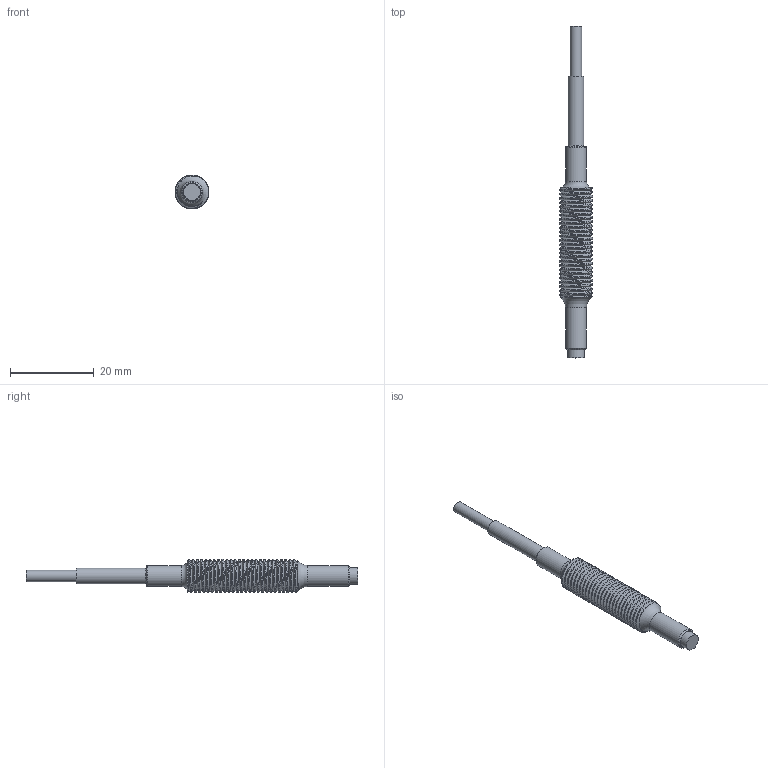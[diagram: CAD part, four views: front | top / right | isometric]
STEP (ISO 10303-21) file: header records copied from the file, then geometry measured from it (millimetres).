
FILE_DESCRIPTION( ( 'STEP AP214' ), '1' );
FILE_NAME( 'N:/Engineering/CAD_Solid/Wirbelstrom/Wirbelstromsensoren/T05/T05-G-KA-VL10-M805.stp', '2013-12-02T09:28:07', ( ' ' ), ( ' ' ), 'XStep 1.0', ' ', ' ' );
FILE_SCHEMA( ( 'CONFIG_CONTROL_DESIGN) ( )' ) );
Length unit declared in the file: metre
Products named in the file (3): 1; 2; 3
Bounding box: 8 x 79.1 x 8 mm (x, y, z)
Surface area: 2248.6 mm2 (no closed solid volume)
Topology: 0 solids, 21 shells, 21 faces, 67 edges, 56 vertices
Faces by surface type: cylinder 7, plane 6, torus 4, bspline 3, cone 1
Full cylindrical faces by diameter (mm): 2.7 x1, 3.7 x1, 4 x1, 4.2 x1, 5 x2
Entity records: 12270 total; most frequent: CARTESIAN_POINT 11704, DIRECTION 110, AXIS2_PLACEMENT_3D 55, ORIENTED_EDGE 54, EDGE_CURVE 54, VERTEX_POINT 54, FACE_BOUND 36, EDGE_LOOP 36
